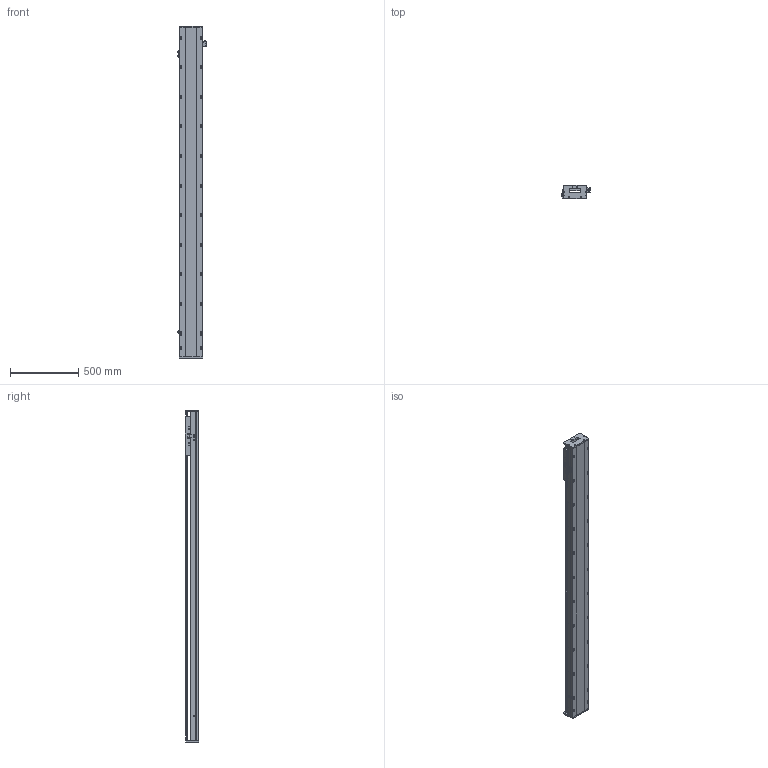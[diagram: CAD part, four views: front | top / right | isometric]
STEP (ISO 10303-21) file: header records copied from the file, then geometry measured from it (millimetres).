
FILE_DESCRIPTION (( 'STEP AP203' ), '1' );
FILE_NAME ('SKR17S-C2-S2044（简）.STEP', '2022-09-29T08:17:41', ( '' ), ( '' ), 'SwSTEP 2.0', 'SolidWorks 2018', '' );
FILE_SCHEMA (( 'CONFIG_CONTROL_DESIGN' ));
Length unit declared in the file: millimetre
Products named in the file (8): SKR17滑台-280L（简）; 棠掑假蚾輸; 感应片（SKR12S-14S-17S）; SKR17S-C2-S2044（简）; SIKO棠掑; SKR17底座-C2-S2044（简); EE-SX672; SKR17耜啣
Assembly tree (10 placements, depth 2):
  SKR17S-C2-S2044（简）
    SKR17底座-C2-S2044（简)
    SIKO棠掑
    EE-SX672  x3
    SKR17耜啣  x2
    棠掑假蚾輸
    SKR17滑台-280L（简）
    感应片（SKR12S-14S-17S）
Bounding box: 212.7 x 97 x 2424 mm (x, y, z)
Volume: 18872591.9 mm3; surface area: 2293660.5 mm2
Topology: 11 solids, 11 shells, 1384 faces, 3867 edges, 2481 vertices
Faces by surface type: cylinder 691, plane 551, cone 142
Entity records: 43299 total; most frequent: CARTESIAN_POINT 11775, ORIENTED_EDGE 6698, DIRECTION 6073, EDGE_CURVE 3349, VERTEX_POINT 2185, AXIS2_PLACEMENT_3D 2163, LINE 1747, VECTOR 1747
